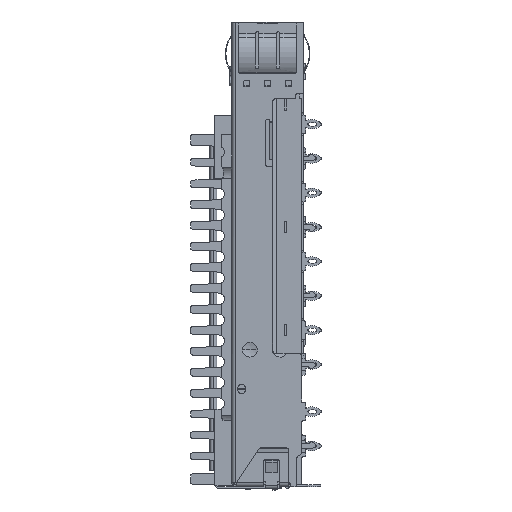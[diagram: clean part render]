
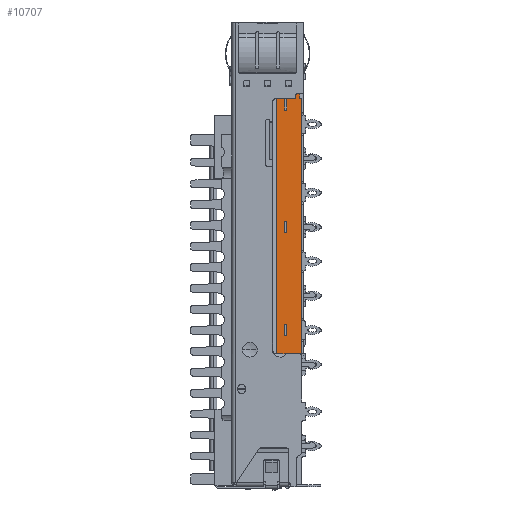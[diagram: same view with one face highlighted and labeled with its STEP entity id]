
A CAD part, left-side view. The second image highlights one B-rep face of the part: STEP entity #10707.
In plain terms, the highlighted planar face has unit normal (-1, 0, 0).
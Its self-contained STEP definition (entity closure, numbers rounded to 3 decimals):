
#10707=ADVANCED_FACE('',(#31787,#31788,#31789),#13954,.F.);
#13954=PLANE('',#94770);
#16451=LINE('',#128252,#24822);
#16455=LINE('',#128261,#24826);
#16458=LINE('',#128267,#24829);
#22848=LINE('',#154674,#31219);
#22850=LINE('',#154678,#31221);
#22851=LINE('',#154681,#31222);
#22852=LINE('',#154682,#31223);
#22853=LINE('',#154684,#31224);
#22854=LINE('',#154686,#31225);
#22855=LINE('',#154688,#31226);
#22856=LINE('',#154690,#31227);
#22857=LINE('',#154692,#31228);
#22858=LINE('',#154694,#31229);
#22859=LINE('',#154697,#31230);
#22860=LINE('',#154699,#31231);
#22861=LINE('',#154701,#31232);
#22862=LINE('',#154702,#31233);
#22863=LINE('',#154705,#31234);
#22864=LINE('',#154707,#31235);
#22865=LINE('',#154709,#31236);
#24822=VECTOR('',#99955,1.);
#24826=VECTOR('',#99961,1.);
#24829=VECTOR('',#99966,1.);
#31219=VECTOR('',#118938,1.);
#31221=VECTOR('',#118942,1.);
#31222=VECTOR('',#118943,1.);
#31223=VECTOR('',#118944,1.);
#31224=VECTOR('',#118945,1.);
#31225=VECTOR('',#118946,1.);
#31226=VECTOR('',#118947,1.);
#31227=VECTOR('',#118948,1.);
#31228=VECTOR('',#118949,1.);
#31229=VECTOR('',#118952,1.);
#31230=VECTOR('',#118953,1.);
#31231=VECTOR('',#118954,1.);
#31232=VECTOR('',#118955,1.);
#31233=VECTOR('',#118956,1.);
#31234=VECTOR('',#118957,1.);
#31235=VECTOR('',#118958,1.);
#31236=VECTOR('',#118959,1.);
#31787=FACE_BOUND('',#36246,.T.);
#31788=FACE_BOUND('',#36247,.T.);
#31789=FACE_BOUND('',#36248,.T.);
#36246=EDGE_LOOP('',(#59819,#59820,#59821,#59822,#59823,#59824,#59825,#59826,
#59827,#59828,#59829,#59830,#59831));
#36247=EDGE_LOOP('',(#59832,#59833,#59834,#59835));
#36248=EDGE_LOOP('',(#59836,#59837,#59838,#59839));
#59819=ORIENTED_EDGE('',*,*,#82863,.F.);
#59820=ORIENTED_EDGE('',*,*,#82864,.T.);
#59821=ORIENTED_EDGE('',*,*,#73332,.T.);
#59822=ORIENTED_EDGE('',*,*,#73336,.T.);
#59823=ORIENTED_EDGE('',*,*,#73339,.T.);
#59824=ORIENTED_EDGE('',*,*,#82865,.F.);
#59825=ORIENTED_EDGE('',*,*,#82866,.T.);
#59826=ORIENTED_EDGE('',*,*,#82867,.T.);
#59827=ORIENTED_EDGE('',*,*,#82868,.T.);
#59828=ORIENTED_EDGE('',*,*,#82869,.T.);
#59829=ORIENTED_EDGE('',*,*,#82870,.F.);
#59830=ORIENTED_EDGE('',*,*,#82861,.T.);
#59831=ORIENTED_EDGE('',*,*,#82871,.T.);
#59832=ORIENTED_EDGE('',*,*,#82872,.F.);
#59833=ORIENTED_EDGE('',*,*,#82873,.T.);
#59834=ORIENTED_EDGE('',*,*,#82874,.T.);
#59835=ORIENTED_EDGE('',*,*,#82875,.T.);
#59836=ORIENTED_EDGE('',*,*,#82876,.F.);
#59837=ORIENTED_EDGE('',*,*,#82877,.T.);
#59838=ORIENTED_EDGE('',*,*,#82878,.T.);
#59839=ORIENTED_EDGE('',*,*,#82879,.T.);
#64829=VERTEX_POINT('',#128253);
#64830=VERTEX_POINT('',#128254);
#64833=VERTEX_POINT('',#128262);
#64835=VERTEX_POINT('',#128268);
#70280=VERTEX_POINT('',#154673);
#70281=VERTEX_POINT('',#154675);
#70282=VERTEX_POINT('',#154679);
#70283=VERTEX_POINT('',#154680);
#70284=VERTEX_POINT('',#154683);
#70285=VERTEX_POINT('',#154685);
#70286=VERTEX_POINT('',#154687);
#70287=VERTEX_POINT('',#154689);
#70288=VERTEX_POINT('',#154691);
#70289=VERTEX_POINT('',#154695);
#70290=VERTEX_POINT('',#154696);
#70291=VERTEX_POINT('',#154698);
#70292=VERTEX_POINT('',#154700);
#70293=VERTEX_POINT('',#154703);
#70294=VERTEX_POINT('',#154704);
#70295=VERTEX_POINT('',#154706);
#70296=VERTEX_POINT('',#154708);
#73332=EDGE_CURVE('',#64829,#64830,#16451,.T.);
#73336=EDGE_CURVE('',#64830,#64833,#16455,.T.);
#73339=EDGE_CURVE('',#64833,#64835,#16458,.T.);
#82861=EDGE_CURVE('',#70281,#70280,#22848,.T.);
#82863=EDGE_CURVE('',#70282,#70283,#22850,.T.);
#82864=EDGE_CURVE('',#70282,#64829,#22851,.T.);
#82865=EDGE_CURVE('',#70284,#64835,#22852,.T.);
#82866=EDGE_CURVE('',#70284,#70285,#22853,.T.);
#82867=EDGE_CURVE('',#70285,#70286,#22854,.T.);
#82868=EDGE_CURVE('',#70286,#70287,#22855,.T.);
#82869=EDGE_CURVE('',#70287,#70288,#22856,.T.);
#82870=EDGE_CURVE('',#70281,#70288,#22857,.T.);
#82871=EDGE_CURVE('',#70280,#70283,#86955,.T.);
#82872=EDGE_CURVE('',#70289,#70290,#22858,.T.);
#82873=EDGE_CURVE('',#70289,#70291,#22859,.T.);
#82874=EDGE_CURVE('',#70291,#70292,#22860,.T.);
#82875=EDGE_CURVE('',#70292,#70290,#22861,.T.);
#82876=EDGE_CURVE('',#70293,#70294,#22862,.T.);
#82877=EDGE_CURVE('',#70293,#70295,#22863,.T.);
#82878=EDGE_CURVE('',#70295,#70296,#22864,.T.);
#82879=EDGE_CURVE('',#70296,#70294,#22865,.T.);
#86955=CIRCLE('',#94769,0.2);
#94769=AXIS2_PLACEMENT_3D('',#154693,#118950,#118951);
#94770=AXIS2_PLACEMENT_3D('',#154710,#118960,#118961);
#99955=DIRECTION('',(0.,0.,-1.));
#99961=DIRECTION('',(0.,1.,0.));
#99966=DIRECTION('',(0.,0.,1.));
#118938=DIRECTION('',(0.,1.,0.));
#118942=DIRECTION('',(0.,0.,1.));
#118943=DIRECTION('',(0.,1.,0.));
#118944=DIRECTION('',(0.,-1.,0.));
#118945=DIRECTION('',(0.,0.,-1.));
#118946=DIRECTION('',(0.,-1.,0.));
#118947=DIRECTION('',(0.,0.,1.));
#118948=DIRECTION('',(0.,1.,0.));
#118949=DIRECTION('',(0.,0.,-1.));
#118950=DIRECTION('',(-1.,0.,0.));
#118951=DIRECTION('',(0.,1.,0.));
#118952=DIRECTION('',(0.,1.,0.));
#118953=DIRECTION('',(0.,0.,-1.));
#118954=DIRECTION('',(0.,1.,0.));
#118955=DIRECTION('',(0.,0.,1.));
#118956=DIRECTION('',(0.,1.,0.));
#118957=DIRECTION('',(0.,0.,-1.));
#118958=DIRECTION('',(0.,1.,0.));
#118959=DIRECTION('',(0.,0.,1.));
#118960=DIRECTION('',(1.,0.,0.));
#118961=DIRECTION('',(0.,1.,0.));
#128252=CARTESIAN_POINT('',(-19.41,-7.236,-10.3));
#128253=CARTESIAN_POINT('',(-19.41,-7.236,-10.05));
#128254=CARTESIAN_POINT('',(-19.41,-7.236,-11.55));
#128261=CARTESIAN_POINT('',(-19.41,-6.95,-11.55));
#128262=CARTESIAN_POINT('',(-19.41,-6.95,-11.55));
#128267=CARTESIAN_POINT('',(-19.41,-6.95,-11.3));
#128268=CARTESIAN_POINT('',(-19.41,-6.95,-10.05));
#154673=CARTESIAN_POINT('',(-19.41,-8.6,-9.4));
#154674=CARTESIAN_POINT('',(-19.41,-9.4,-9.4));
#154675=CARTESIAN_POINT('',(-19.41,-8.9,-9.4));
#154678=CARTESIAN_POINT('',(-19.41,-8.4,-11.75));
#154679=CARTESIAN_POINT('',(-19.41,-8.4,-10.05));
#154680=CARTESIAN_POINT('',(-19.41,-8.4,-9.6));
#154681=CARTESIAN_POINT('',(-19.41,-9.15,-10.05));
#154682=CARTESIAN_POINT('',(-19.41,-5.3,-10.05));
#154683=CARTESIAN_POINT('',(-19.41,-5.899,-10.05));
#154684=CARTESIAN_POINT('',(-19.41,-5.899,0.));
#154685=CARTESIAN_POINT('',(-19.41,-5.899,-43.51));
#154686=CARTESIAN_POINT('',(-19.41,-9.4,-43.51));
#154687=CARTESIAN_POINT('',(-19.41,-9.15,-43.51));
#154688=CARTESIAN_POINT('',(-19.41,-9.15,-43.51));
#154689=CARTESIAN_POINT('',(-19.41,-9.15,-10.05));
#154690=CARTESIAN_POINT('',(-19.41,-9.15,-10.05));
#154691=CARTESIAN_POINT('',(-19.41,-8.9,-10.05));
#154692=CARTESIAN_POINT('',(-19.41,-8.9,-43.51));
#154693=CARTESIAN_POINT('',(-19.41,-8.6,-9.6));
#154694=CARTESIAN_POINT('',(-19.41,-6.95,-39.65));
#154695=CARTESIAN_POINT('',(-19.41,-7.236,-39.65));
#154696=CARTESIAN_POINT('',(-19.41,-6.95,-39.65));
#154697=CARTESIAN_POINT('',(-19.41,-7.236,-39.9));
#154698=CARTESIAN_POINT('',(-19.41,-7.236,-41.15));
#154699=CARTESIAN_POINT('',(-19.41,-6.95,-41.15));
#154700=CARTESIAN_POINT('',(-19.41,-6.95,-41.15));
#154701=CARTESIAN_POINT('',(-19.41,-6.95,-40.9));
#154702=CARTESIAN_POINT('',(-19.41,-6.95,-26.15));
#154703=CARTESIAN_POINT('',(-19.41,-7.236,-26.15));
#154704=CARTESIAN_POINT('',(-19.41,-6.95,-26.15));
#154705=CARTESIAN_POINT('',(-19.41,-7.236,-26.4));
#154706=CARTESIAN_POINT('',(-19.41,-7.236,-27.65));
#154707=CARTESIAN_POINT('',(-19.41,-6.95,-27.65));
#154708=CARTESIAN_POINT('',(-19.41,-6.95,-27.65));
#154709=CARTESIAN_POINT('',(-19.41,-6.95,-27.4));
#154710=CARTESIAN_POINT('',(-19.41,-9.4,0.));
